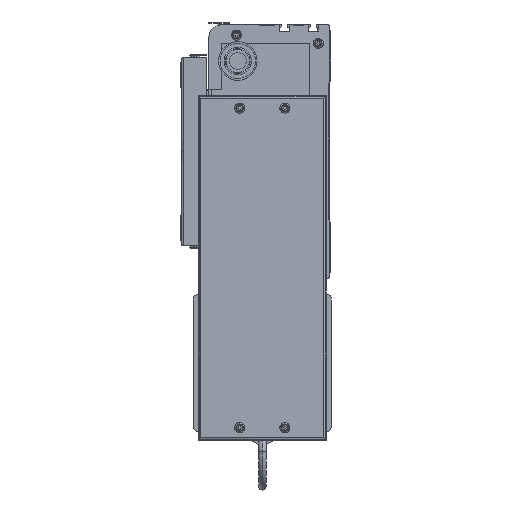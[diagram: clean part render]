
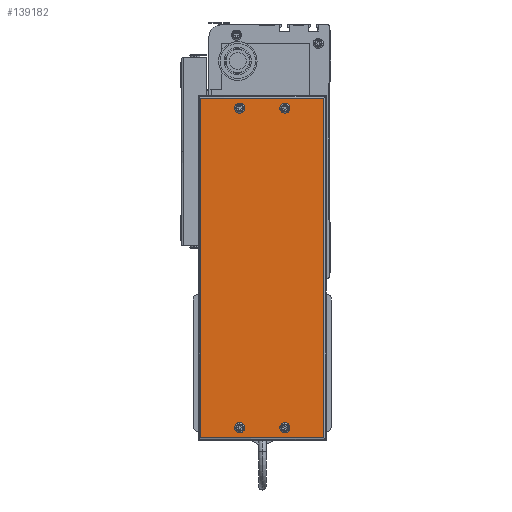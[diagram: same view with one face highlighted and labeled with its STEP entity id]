
A CAD part, left-side view. The second image highlights one B-rep face of the part: STEP entity #139182.
In plain terms, the highlighted planar face has unit normal (-1, 0, 0) as drawn and (1, 0, 0) by its records, which use the part's own axes.
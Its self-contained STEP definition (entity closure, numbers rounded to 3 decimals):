
#71065 = CARTESIAN_POINT ( 'NONE',  ( 50., 10., -66.5 ) ) ;
#73327 = CARTESIAN_POINT ( 'NONE',  ( 50., 10., -30.5 ) ) ;
#73396 = CARTESIAN_POINT ( 'NONE',  ( 50., 264., -30.5 ) ) ;
#73409 = DIRECTION ( 'NONE',  ( 0., 0., -1. ) ) ;
#73411 = DIRECTION ( 'NONE',  ( 1., 0., 0. ) ) ;
#73413 = CARTESIAN_POINT ( 'NONE',  ( 50., 10., -69. ) ) ;
#73414 = AXIS2_PLACEMENT_3D ( 'NONE', #73413, #73411, #73409 ) ;
#73420 = CIRCLE ( 'NONE', #73414, 2.5 ) ;
#73449 = DIRECTION ( 'NONE',  ( 0., 0., -1. ) ) ;
#73450 = DIRECTION ( 'NONE',  ( 1., 0., 0. ) ) ;
#73451 = AXIS2_PLACEMENT_3D ( 'NONE', #73468, #73450, #73449 ) ;
#73468 = CARTESIAN_POINT ( 'NONE',  ( 50., 264., -69. ) ) ;
#73484 = CIRCLE ( 'NONE', #73451, 2.5 ) ;
#73499 = CARTESIAN_POINT ( 'NONE',  ( 50., 10., -35.5 ) ) ;
#73570 = CARTESIAN_POINT ( 'NONE',  ( 50., 264., -71.5 ) ) ;
#73686 = CIRCLE ( 'NONE', #73691, 2.5 ) ;
#73691 = AXIS2_PLACEMENT_3D ( 'NONE', #73699, #73741, #73740 ) ;
#73699 = CARTESIAN_POINT ( 'NONE',  ( 50., 10., -33. ) ) ;
#73711 = CARTESIAN_POINT ( 'NONE',  ( 50., 264., -66.5 ) ) ;
#73740 = DIRECTION ( 'NONE',  ( 0., 0., -1. ) ) ;
#73741 = DIRECTION ( 'NONE',  ( 1., 0., 0. ) ) ;
#73859 = CARTESIAN_POINT ( 'NONE',  ( 50., 274., 0. ) ) ;
#73862 = CIRCLE ( 'NONE', #73901, 2.5 ) ;
#73864 = DIRECTION ( 'NONE',  ( -1., 0., 0. ) ) ;
#73873 = PLANE ( 'NONE',  #73903 ) ;
#73886 = DIRECTION ( 'NONE',  ( 0., 0., -1. ) ) ;
#73887 = VECTOR ( 'NONE', #73886, 1000. ) ;
#73889 = DIRECTION ( 'NONE',  ( 0., 0., 1. ) ) ;
#73891 = CARTESIAN_POINT ( 'NONE',  ( 50., 272., -100. ) ) ;
#73892 = CARTESIAN_POINT ( 'NONE',  ( 50., 2., 0. ) ) ;
#73894 = LINE ( 'NONE', #73892, #73887 ) ;
#73897 = FACE_BOUND ( 'NONE', #139416, .T. ) ;
#73899 = DIRECTION ( 'NONE',  ( 0., 0., -1. ) ) ;
#73900 = DIRECTION ( 'NONE',  ( 1., 0., 0. ) ) ;
#73901 = AXIS2_PLACEMENT_3D ( 'NONE', #73913, #73900, #73899 ) ;
#73902 = FACE_BOUND ( 'NONE', #139193, .T. ) ;
#73903 = AXIS2_PLACEMENT_3D ( 'NONE', #73859, #73864, #73889 ) ;
#73904 = FACE_BOUND ( 'NONE', #139263, .T. ) ;
#73905 = FACE_BOUND ( 'NONE', #139267, .T. ) ;
#73906 = FACE_OUTER_BOUND ( 'NONE', #139324, .T. ) ;
#73913 = CARTESIAN_POINT ( 'NONE',  ( 50., 264., -33. ) ) ;
#74014 = CARTESIAN_POINT ( 'NONE',  ( 50., 10., -71.5 ) ) ;
#74063 = DIRECTION ( 'NONE',  ( 0., 0., -1. ) ) ;
#74064 = DIRECTION ( 'NONE',  ( 1., 0., 0. ) ) ;
#74065 = CARTESIAN_POINT ( 'NONE',  ( 50., 10., -33. ) ) ;
#74066 = AXIS2_PLACEMENT_3D ( 'NONE', #74065, #74064, #74063 ) ;
#74076 = CIRCLE ( 'NONE', #74066, 2.5 ) ;
#74079 = CARTESIAN_POINT ( 'NONE',  ( 50., 274., -100. ) ) ;
#74087 = CARTESIAN_POINT ( 'NONE',  ( 50., 10., -69. ) ) ;
#74110 = CARTESIAN_POINT ( 'NONE',  ( 50., 272., 0. ) ) ;
#74111 = LINE ( 'NONE', #74110, #74173 ) ;
#74127 = DIRECTION ( 'NONE',  ( 0., 0., -1. ) ) ;
#74128 = DIRECTION ( 'NONE',  ( 1., 0., 0. ) ) ;
#74132 = DIRECTION ( 'NONE',  ( 0., 1., 0. ) ) ;
#74133 = VECTOR ( 'NONE', #74132, 1000. ) ;
#74138 = CIRCLE ( 'NONE', #74142, 2.5 ) ;
#74139 = LINE ( 'NONE', #74079, #74133 ) ;
#74141 = CARTESIAN_POINT ( 'NONE',  ( 50., 2., -100. ) ) ;
#74142 = AXIS2_PLACEMENT_3D ( 'NONE', #74087, #74128, #74127 ) ;
#74149 = CARTESIAN_POINT ( 'NONE',  ( 50., 2., -2. ) ) ;
#74153 = CARTESIAN_POINT ( 'NONE',  ( 50., 272., -2. ) ) ;
#74156 = CARTESIAN_POINT ( 'NONE',  ( 50., 274., -2. ) ) ;
#74157 = LINE ( 'NONE', #74156, #74207 ) ;
#74172 = DIRECTION ( 'NONE',  ( 0., 0., 1. ) ) ;
#74173 = VECTOR ( 'NONE', #74172, 1000. ) ;
#74206 = DIRECTION ( 'NONE',  ( 0., -1., 0. ) ) ;
#74207 = VECTOR ( 'NONE', #74206, 1000. ) ;
#74394 = AXIS2_PLACEMENT_3D ( 'NONE', #74395, #74441, #74440 ) ;
#74395 = CARTESIAN_POINT ( 'NONE',  ( 50., 264., -69. ) ) ;
#74399 = CARTESIAN_POINT ( 'NONE',  ( 50., 264., -33. ) ) ;
#74401 = CIRCLE ( 'NONE', #74394, 2.5 ) ;
#74406 = CIRCLE ( 'NONE', #74463, 2.5 ) ;
#74440 = DIRECTION ( 'NONE',  ( 0., 0., -1. ) ) ;
#74441 = DIRECTION ( 'NONE',  ( 1., 0., 0. ) ) ;
#74461 = DIRECTION ( 'NONE',  ( 0., 0., -1. ) ) ;
#74462 = DIRECTION ( 'NONE',  ( 1., 0., 0. ) ) ;
#74463 = AXIS2_PLACEMENT_3D ( 'NONE', #74399, #74462, #74461 ) ;
#74498 = CARTESIAN_POINT ( 'NONE',  ( 50., 264., -35.5 ) ) ;
#138623 = VERTEX_POINT ( 'NONE', #71065 ) ;
#138944 = EDGE_CURVE ( 'NONE', #138623, #139258, #73420, .T. ) ;
#138954 = VERTEX_POINT ( 'NONE', #73327 ) ;
#138959 = VERTEX_POINT ( 'NONE', #73499 ) ;
#138963 = VERTEX_POINT ( 'NONE', #73396 ) ;
#138967 = EDGE_CURVE ( 'NONE', #139065, #138970, #73484, .T. ) ;
#138970 = VERTEX_POINT ( 'NONE', #73570 ) ;
#139064 = EDGE_CURVE ( 'NONE', #138954, #138959, #73686, .T. ) ;
#139065 = VERTEX_POINT ( 'NONE', #73711 ) ;
#139180 = EDGE_CURVE ( 'NONE', #139459, #138963, #73862, .T. ) ;
#139182 = ADVANCED_FACE ( 'NONE', ( #73906, #73904, #73902, #73905, #73897 ), #73873, .F. ) ;
#139183 = VERTEX_POINT ( 'NONE', #73891 ) ;
#139184 = ORIENTED_EDGE ( 'NONE', *, *, #139325, .T. ) ;
#139185 = EDGE_CURVE ( 'NONE', #139321, #139297, #73894, .T. ) ;
#139188 = ORIENTED_EDGE ( 'NONE', *, *, #139299, .T. ) ;
#139190 = ORIENTED_EDGE ( 'NONE', *, *, #139269, .F. ) ;
#139193 = EDGE_LOOP ( 'NONE', ( #139190, #139261 ) ) ;
#139194 = ORIENTED_EDGE ( 'NONE', *, *, #139409, .F. ) ;
#139258 = VERTEX_POINT ( 'NONE', #74014 ) ;
#139261 = ORIENTED_EDGE ( 'NONE', *, *, #139064, .F. ) ;
#139262 = ORIENTED_EDGE ( 'NONE', *, *, #139311, .T. ) ;
#139263 = EDGE_LOOP ( 'NONE', ( #139264, #139268 ) ) ;
#139264 = ORIENTED_EDGE ( 'NONE', *, *, #139300, .F. ) ;
#139265 = ORIENTED_EDGE ( 'NONE', *, *, #139414, .F. ) ;
#139267 = EDGE_LOOP ( 'NONE', ( #139265, #139417 ) ) ;
#139268 = ORIENTED_EDGE ( 'NONE', *, *, #138944, .F. ) ;
#139269 = EDGE_CURVE ( 'NONE', #138959, #138954, #74076, .T. ) ;
#139297 = VERTEX_POINT ( 'NONE', #74141 ) ;
#139298 = ORIENTED_EDGE ( 'NONE', *, *, #139185, .T. ) ;
#139299 = EDGE_CURVE ( 'NONE', #139297, #139183, #74139, .T. ) ;
#139300 = EDGE_CURVE ( 'NONE', #139258, #138623, #74138, .T. ) ;
#139311 = EDGE_CURVE ( 'NONE', #139183, #139320, #74111, .T. ) ;
#139320 = VERTEX_POINT ( 'NONE', #74153 ) ;
#139321 = VERTEX_POINT ( 'NONE', #74149 ) ;
#139324 = EDGE_LOOP ( 'NONE', ( #139184, #139298, #139188, #139262 ) ) ;
#139325 = EDGE_CURVE ( 'NONE', #139320, #139321, #74157, .T. ) ;
#139409 = EDGE_CURVE ( 'NONE', #138963, #139459, #74406, .T. ) ;
#139414 = EDGE_CURVE ( 'NONE', #138970, #139065, #74401, .T. ) ;
#139415 = ORIENTED_EDGE ( 'NONE', *, *, #139180, .F. ) ;
#139416 = EDGE_LOOP ( 'NONE', ( #139415, #139194 ) ) ;
#139417 = ORIENTED_EDGE ( 'NONE', *, *, #138967, .F. ) ;
#139459 = VERTEX_POINT ( 'NONE', #74498 ) ;
